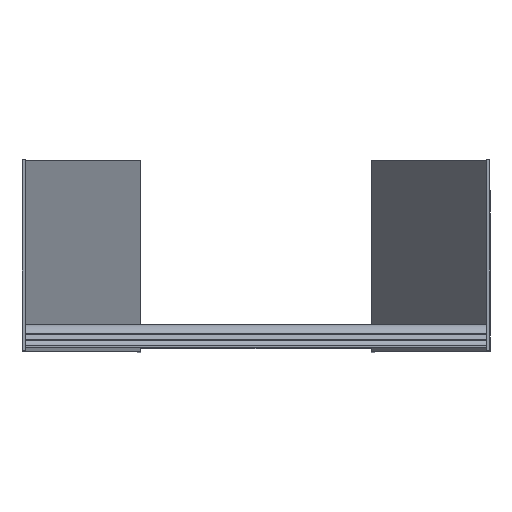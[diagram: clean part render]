
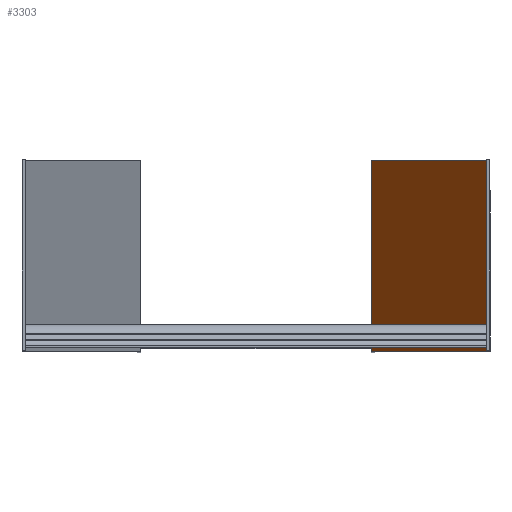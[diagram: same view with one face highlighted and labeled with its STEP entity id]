
A CAD part, top view. The second image highlights one B-rep face of the part: STEP entity #3303.
In plain terms, the highlighted planar face has unit normal (-0.966, 0, 0.259).
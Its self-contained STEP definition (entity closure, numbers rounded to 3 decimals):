
#137 = VERTEX_POINT ( 'NONE', #6363 ) ;
#258 = DIRECTION ( 'NONE',  ( 0., 1., 0. ) ) ;
#275 = EDGE_CURVE ( 'NONE', #2986, #5782, #5472, .T. ) ;
#327 = ORIENTED_EDGE ( 'NONE', *, *, #3480, .T. ) ;
#743 = EDGE_LOOP ( 'NONE', ( #5828, #5650, #4091, #327 ) ) ;
#814 = LINE ( 'NONE', #6644, #6730 ) ;
#957 = FACE_OUTER_BOUND ( 'NONE', #743, .T. ) ;
#990 = DIRECTION ( 'NONE',  ( 0.259, 0., 0.966 ) ) ;
#1290 = VECTOR ( 'NONE', #5985, 1000. ) ;
#1393 = LINE ( 'NONE', #3493, #5147 ) ;
#1719 = CARTESIAN_POINT ( 'NONE',  ( 149.949, 124., -0.191 ) ) ;
#2019 = VERTEX_POINT ( 'NONE', #3427 ) ;
#2124 = EDGE_CURVE ( 'NONE', #2986, #137, #5911, .T. ) ;
#2879 = AXIS2_PLACEMENT_3D ( 'NONE', #3712, #5816, #990 ) ;
#2986 = VERTEX_POINT ( 'NONE', #4897 ) ;
#3192 = VECTOR ( 'NONE', #3948, 1000. ) ;
#3303 = ADVANCED_FACE ( 'NONE', ( #957 ), #4234, .T. ) ;
#3427 = CARTESIAN_POINT ( 'NONE',  ( 75.119, 124., -279.555 ) ) ;
#3480 = EDGE_CURVE ( 'NONE', #5782, #2019, #814, .T. ) ;
#3493 = CARTESIAN_POINT ( 'NONE',  ( 75.119, 0., -279.555 ) ) ;
#3712 = CARTESIAN_POINT ( 'NONE',  ( 150., 124., 0. ) ) ;
#3920 = CARTESIAN_POINT ( 'NONE',  ( 149.949, 0., -0.191 ) ) ;
#3948 = DIRECTION ( 'NONE',  ( -0.259, 0., -0.966 ) ) ;
#4091 = ORIENTED_EDGE ( 'NONE', *, *, #275, .T. ) ;
#4234 = PLANE ( 'NONE',  #2879 ) ;
#4467 = CARTESIAN_POINT ( 'NONE',  ( 150., 0., 0. ) ) ;
#4897 = CARTESIAN_POINT ( 'NONE',  ( 149.949, 0., -0.191 ) ) ;
#5057 = DIRECTION ( 'NONE',  ( -0.259, 0., -0.966 ) ) ;
#5147 = VECTOR ( 'NONE', #258, 1000. ) ;
#5472 = LINE ( 'NONE', #3920, #1290 ) ;
#5650 = ORIENTED_EDGE ( 'NONE', *, *, #2124, .F. ) ;
#5782 = VERTEX_POINT ( 'NONE', #1719 ) ;
#5816 = DIRECTION ( 'NONE',  ( -0.966, 0., 0.259 ) ) ;
#5828 = ORIENTED_EDGE ( 'NONE', *, *, #6213, .F. ) ;
#5911 = LINE ( 'NONE', #4467, #3192 ) ;
#5985 = DIRECTION ( 'NONE',  ( 0., 1., 0. ) ) ;
#6213 = EDGE_CURVE ( 'NONE', #137, #2019, #1393, .T. ) ;
#6363 = CARTESIAN_POINT ( 'NONE',  ( 75.119, 0., -279.555 ) ) ;
#6644 = CARTESIAN_POINT ( 'NONE',  ( 150., 124., 0. ) ) ;
#6730 = VECTOR ( 'NONE', #5057, 1000. ) ;
